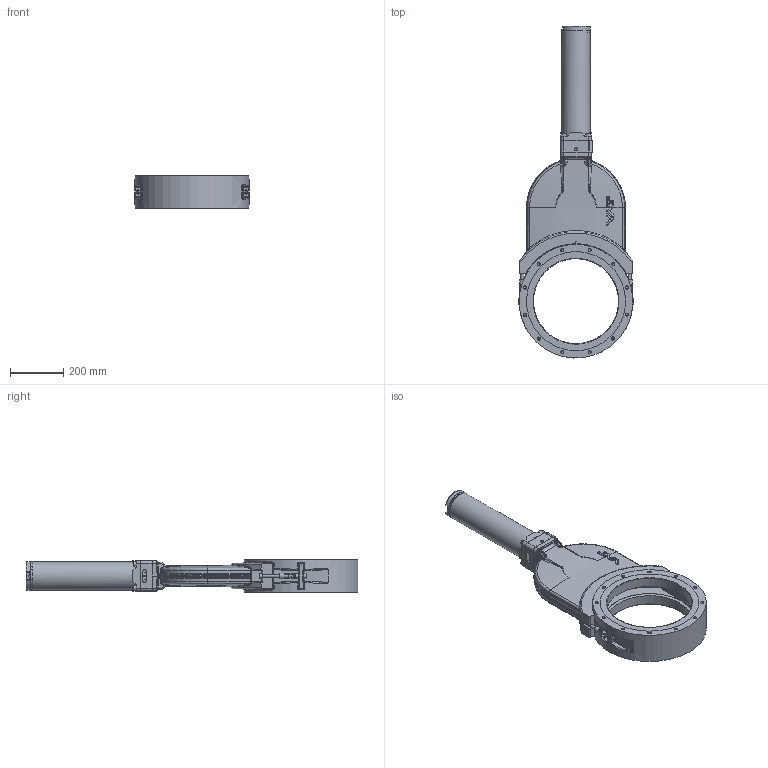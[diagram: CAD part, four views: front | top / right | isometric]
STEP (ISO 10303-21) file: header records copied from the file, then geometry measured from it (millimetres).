
FILE_DESCRIPTION((''),'2;1');
FILE_NAME('O:\MT\MT\Systeme\Cad\Datenexporte\www_vat_ch\221236.stp','2005-05-11T14:16:36',('User'),('SDRC'),'I-DEAS Master Series 9','UNIX','Yes');
FILE_SCHEMA(('CONFIG_CONTROL_DESIGN'));
Length unit declared in the file: millimetre
Products named in the file (2): 87090-R1; 92838-01_4
Assembly tree (40 placements, depth 2):
  87090-R1
    92838-01_4
    #2490
    #2651
    #2812
    #2973
    #3295
    #3456
Bounding box: 428 x 1241.71 x 120 mm (x, y, z)
Volume: 10309265.2 mm3; surface area: 1581533.1 mm2
Topology: 41 solids, 41 shells, 1726 faces, 3947 edges, 2352 vertices
Faces by surface type: bspline 1726
Entity records: 70611 total; most frequent: CARTESIAN_POINT 46601, ORIENTED_EDGE 6851, EDGE_CURVE 3426, VERTEX_POINT 2081, EDGE_LOOP 1720, B_SPLINE_CURVE_WITH_KNOTS 1674, FACE_OUTER_BOUND 1519, ADVANCED_FACE 1519
